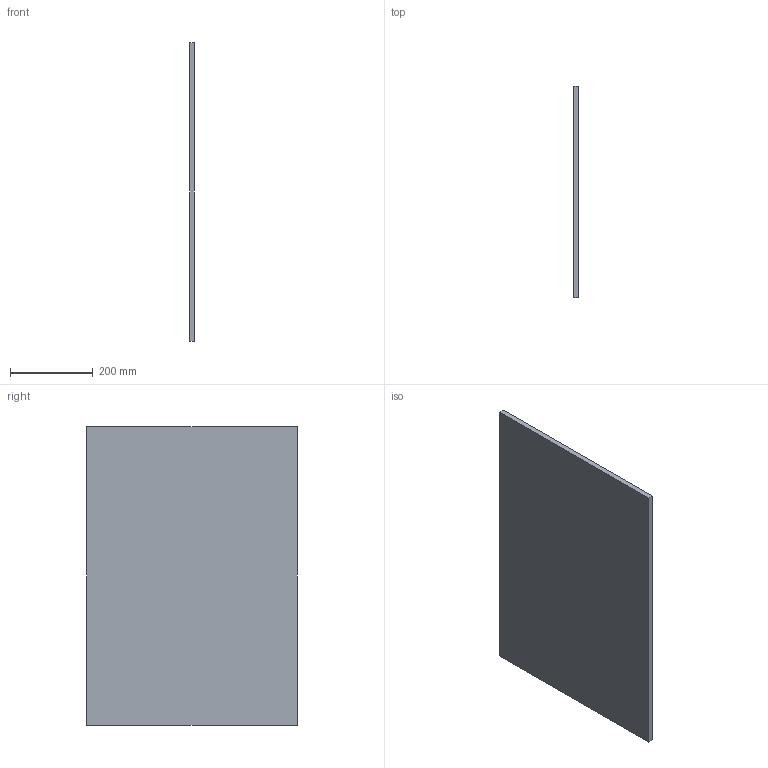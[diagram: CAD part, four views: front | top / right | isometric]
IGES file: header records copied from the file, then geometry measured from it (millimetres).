
Start section: Data from Parasolid IGES Translator 19.0.9, Copyright(c) 2006 Siemens PL M Software. All Rights Reserved.
Global section: file name: noorth-SI-H 72 D 51 W 1,2_9703.igs; native system: By Siemens PLM Incorporated; preprocessor: XPlus GENERIC/IGES 19.0.9; author: Noname; organization: Noname; date: 20200710.084619; units: metre
Bounding box: 12 x 508 x 720 mm (x, y, z)
Volume: 4389120 mm3; surface area: 760992 mm2
Topology: 1 solids, 1 shells, 6 faces, 12 edges, 8 vertices
Faces by surface type: plane 6
